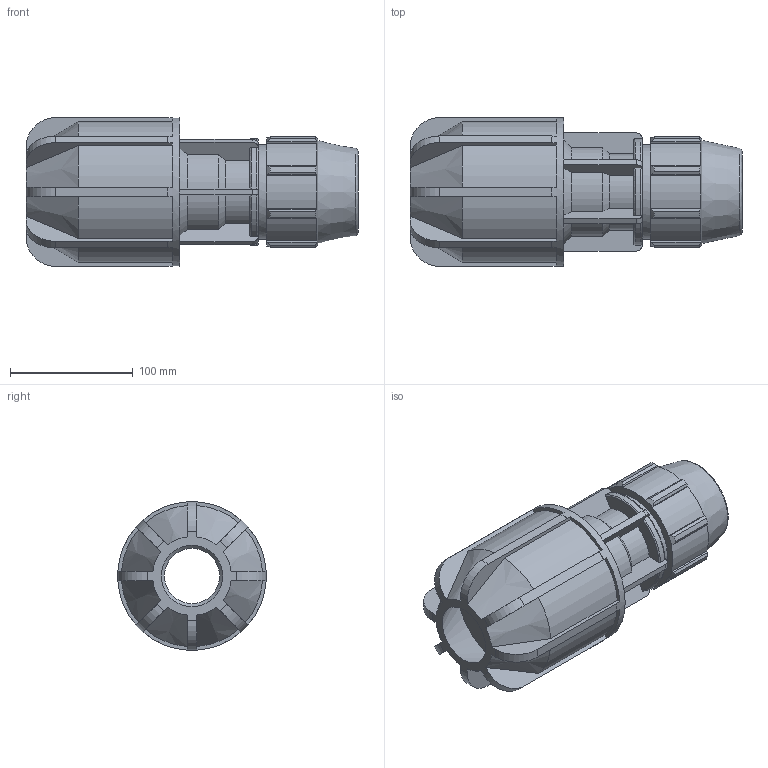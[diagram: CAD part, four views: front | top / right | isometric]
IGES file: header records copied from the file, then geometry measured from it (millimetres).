
Global section: file name: 070170050050_180170050050_0701760500500A.ipt; native system: Autodesk Inventor 2015; preprocessor: unknown; author: KIM; date: 20170606.172107; units: millimetre
Bounding box: 270 x 121 x 121 mm (x, y, z)
Volume: 1219080.5 mm3; surface area: 176655.6 mm2
Topology: 1 solids, 1 shells, 220 faces, 635 edges, 422 vertices
Faces by surface type: plane 111, cylinder 58, cone 30, revolution 21
Full cylindrical faces by diameter (mm): 76.8 x1, 121 x1
